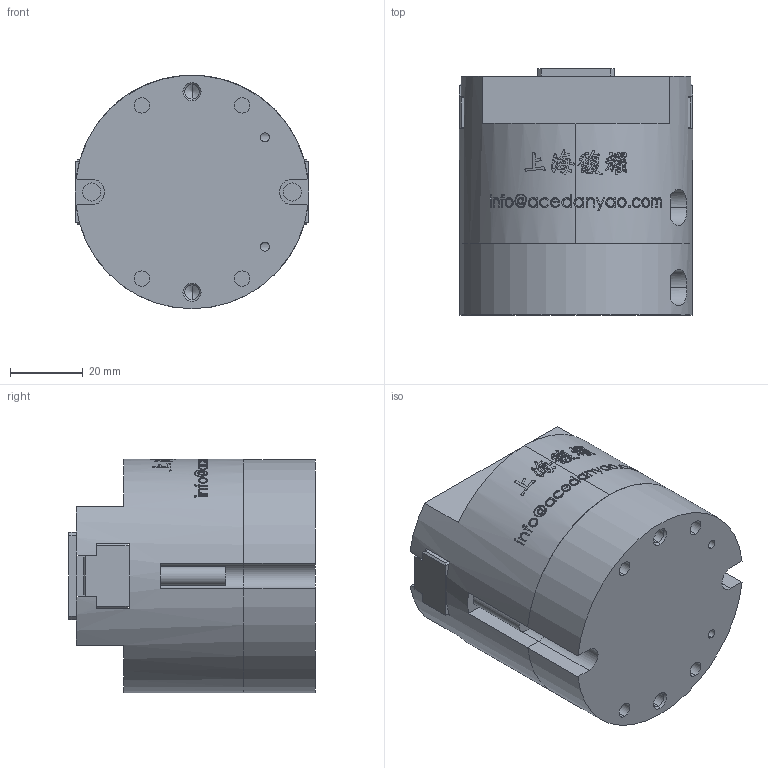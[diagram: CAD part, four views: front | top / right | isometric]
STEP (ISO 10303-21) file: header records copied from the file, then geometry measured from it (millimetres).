
FILE_DESCRIPTION (( 'STEP AP203' ), '1' );
FILE_NAME ('OPM-064-C1-MC&MA-原始檔-組合-W106.04.18.STEP', '2017-04-18T05:30:16', ( 'DanyaoCAD' ), ( '' ), 'SwSTEP 2.0', 'SolidWorks 2016', '' );
FILE_SCHEMA (( 'CONFIG_CONTROL_DESIGN' ));
Length unit declared in the file: millimetre
Products named in the file (4): OPM-064-C1-MC&MA-原始檔-組合-W106.04.18; Griffa; Fondello; Corpo
Assembly tree (4 placements, depth 2):
  OPM-064-C1-MC&MA-原始檔-組合-W106.04.18
    Griffa  x2
    Fondello
    Corpo
Bounding box: 64 x 67.5 x 64 mm (x, y, z)
Volume: 187521.5 mm3; surface area: 39004 mm2
Topology: 4 solids, 4 shells, 1004 faces, 2769 edges, 1822 vertices
Faces by surface type: bspline 665, plane 197, cylinder 114, cone 28
Entity records: 87582 total; most frequent: CARTESIAN_POINT 68518, ORIENTED_EDGE 5290, EDGE_CURVE 2645, B_SPLINE_CURVE_WITH_KNOTS 2039, VERTEX_POINT 1754, DIRECTION 1409, EDGE_LOOP 1039, ADVANCED_FACE 959
